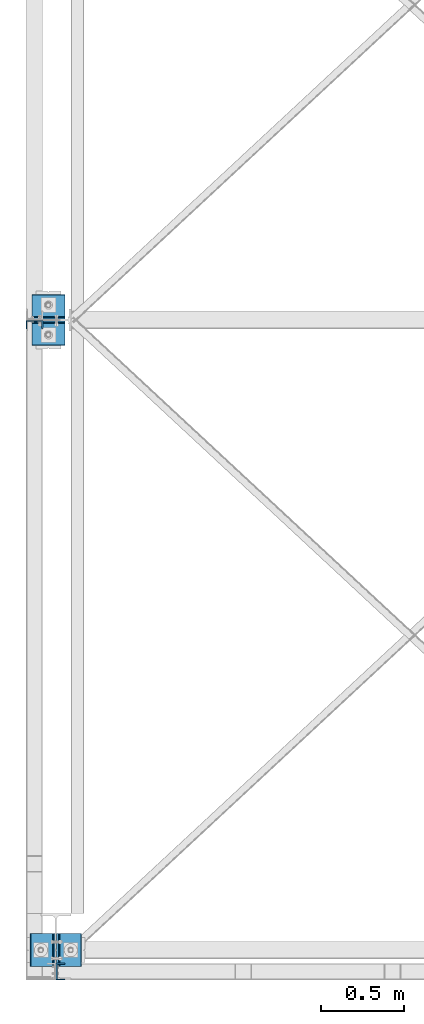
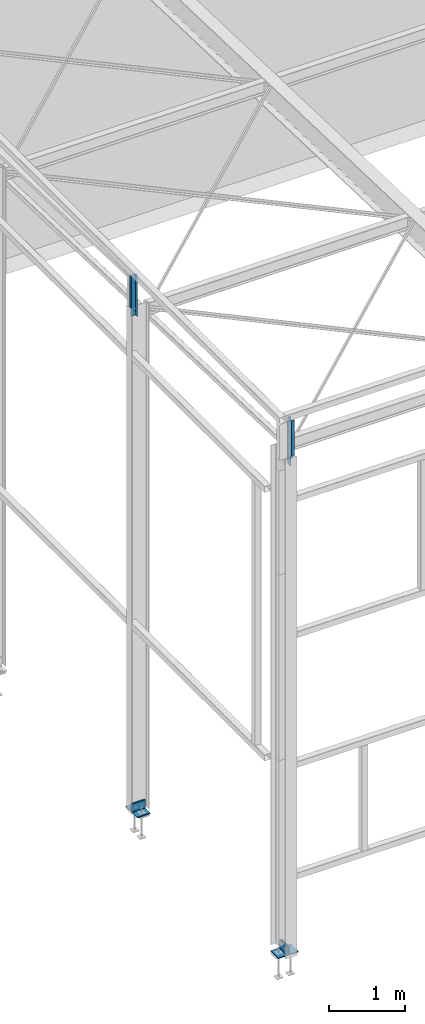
# One storey, part 40 of 123: 6 beams, 6 elements without a shape of their own.
"""IFC2X3 building model written with IfcOpenShell, lengths in millimetres."""

from ifc_helpers import new_model, si_unit, frame, origin_with_axes, origin_2d_with_axis, place, context, subcontext, project, spatial, polyline, l_section, u_section, outline, extrude, boolean, material, type_object, element, aggregate, save


model = new_model("IFC2X3")

# Units and contexts
model_context = context("Model", 3, precision=1e-05, world=origin_with_axes())
body_context = subcontext(model_context, "Body", "Model", "MODEL_VIEW")
ifc_project = project(units=[si_unit("LENGTHUNIT", "METRE", prefix="MILLI"), si_unit("AREAUNIT", "SQUARE_METRE"), si_unit("VOLUMEUNIT", "CUBIC_METRE"), si_unit("MASSUNIT", "GRAM", prefix="KILO"), si_unit("TIMEUNIT", "SECOND"), si_unit("PLANEANGLEUNIT", "RADIAN"), si_unit("SOLIDANGLEUNIT", "STERADIAN"), si_unit("THERMODYNAMICTEMPERATUREUNIT", "DEGREE_CELSIUS"), si_unit("LUMINOUSINTENSITYUNIT", "LUMEN")], contexts=[model_context])

# Site, building, storey
site_placement = place(None, origin_with_axes())
site = spatial("IfcSite", under=ifc_project, at=site_placement, Name="Undefined", CompositionType="ELEMENT")
building_placement = place(site_placement, origin_with_axes())
building = spatial("IfcBuilding", under=site, at=building_placement, Name="Undefined", CompositionType="ELEMENT")
storey_placement = place(building_placement, origin_with_axes())
storey = spatial("IfcBuildingStorey", under=building, at=storey_placement, Name="Undefined", CompositionType="ELEMENT", Elevation=0.0)

# Assembly, beam
assembly_1_placement = place(storey_placement, origin_with_axes())
assembly_1 = element("IfcElementAssembly", 1, at=assembly_1_placement, inside=storey, Name="Steel Assembly", AssemblyPlace="NOTDEFINED", PredefinedType="RIGID_FRAME")
ifc_material = material(Name="STEEL/S235-E24")
beam_type_1 = type_object("IfcBeamType", Name="UPF-100*50*4", PredefinedType="NOTDEFINED")
beam_1_placement = place(assembly_1_placement, frame((28.3000076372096, -130.000001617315, 8445.00161512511), z_axis=(0.0, 1.0, 0.0), x_axis=(0.0, 0.0, -1.0)))
beam_1 = element("IfcBeam", 2, at=beam_1_placement, type_object=beam_type_1, material=ifc_material, Name="BAIONNETTE", ObjectType="UPF-100*50*4", context=body_context, shape_type="CSG", body=[
    boolean("DIFFERENCE", extrude(u_section(Depth=100.0, FlangeWidth=50.0, WebThickness=4.0, FlangeThickness=4.0, at=origin_2d_with_axis()), frame((754.998684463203, 0.0, 0.0), z_axis=(-1.0, 0.0, 0.0), x_axis=(0.0, -1.0, 0.0)), (0.0, 0.0, 1.0), 755.0), extrude(outline(polyline([(0.0, 0.0), (19.999999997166, 0.0), (19.999999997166, 170.0), (-2.84853740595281e-09, 170.0), (0.0, 0.0)])), frame((584.998600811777, -27.5000000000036, -50.0000000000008), z_axis=(0.0, 1.0, 0.0), x_axis=(0.0, 0.0, 1.0)), (0.0, 0.0, 1.0), 55.0)),
])
aggregate(assembly_1, [beam_1])

assembly_2_placement = place(storey_placement, origin_with_axes())
assembly_2 = element("IfcElementAssembly", 3, at=assembly_2_placement, inside=storey, Name="Steel Assembly", AssemblyPlace="NOTDEFINED", PredefinedType="RIGID_FRAME")
beam_2_placement = place(assembly_2_placement, frame((-130.000001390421, 3771.7000000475, 8444.99776675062), z_axis=(1.0, 0.0, 0.0), x_axis=(0.0, 0.0, -1.0)))
beam_2 = element("IfcBeam", 4, at=beam_2_placement, type_object=beam_type_1, material=ifc_material, Name="BAIONNETTE", ObjectType="UPF-100*50*4", context=body_context, shape_type="CSG", body=[
    boolean("DIFFERENCE", extrude(u_section(Depth=100.0, FlangeWidth=50.0, WebThickness=4.0, FlangeThickness=4.0, at=origin_2d_with_axis()), frame((669.998684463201, 0.0, 0.0), z_axis=(-1.0, 0.0, 0.0), x_axis=(0.0, -1.0, 0.0)), (0.0, 0.0, 1.0), 670.0), extrude(outline(polyline([(0.0, 0.0), (19.999999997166, 0.0), (19.999999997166, 170.0), (-2.84853740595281e-09, 170.0), (0.0, 0.0)])), frame((499.998600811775, -27.5000000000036, -50.0000000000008), z_axis=(0.0, 1.0, 0.0), x_axis=(0.0, 0.0, 1.0)), (0.0, 0.0, 1.0), 55.0)),
])
aggregate(assembly_2, [beam_2])

assembly_3_placement = place(storey_placement, origin_with_axes())
assembly_3 = element("IfcElementAssembly", 5, at=assembly_3_placement, inside=storey, Name="Steel Assembly", AssemblyPlace="NOTDEFINED", PredefinedType="RIGID_FRAME")
beam_type_2 = type_object("IfcBeamType", Name="L150*15", PredefinedType="NOTDEFINED")
beam_3_placement = place(assembly_3_placement, frame((-80.0028495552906, 100.0, -175.0), z_axis=(0.0, 0.0, 1.0), x_axis=(0.0, -1.0, 0.0)))
beam_3 = element("IfcBeam", 6, at=beam_3_placement, type_object=beam_type_2, material=ifc_material, Name="ATTACHE", ObjectType="L150*15", context=body_context, shape_type="SweptSolid", body=[
    extrude(l_section(Depth=150.0, Width=150.0, Thickness=15.0, FilletRadius=16.0, EdgeRadius=8.0, at=origin_2d_with_axis()), frame((200.0, 0.0, 0.0), z_axis=(-1.0, 0.0, 0.0), x_axis=(0.0, -1.0, 0.0)), (0.0, 0.0, 1.0), 200.0),
])
aggregate(assembly_3, [beam_3])

assembly_4_placement = place(storey_placement, origin_with_axes())
assembly_4 = element("IfcElementAssembly", 7, at=assembly_4_placement, inside=storey, Name="Steel Assembly", AssemblyPlace="NOTDEFINED", PredefinedType="RIGID_FRAME")
beam_4_placement = place(assembly_4_placement, frame((79.9971504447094, -100.0, -175.0), z_axis=(0.0, 0.0, 1.0), x_axis=(0.0, 1.0, 0.0)))
beam_4 = element("IfcBeam", 8, at=beam_4_placement, type_object=beam_type_2, material=ifc_material, Name="ATTACHE", ObjectType="L150*15", context=body_context, shape_type="SweptSolid", body=[
    extrude(l_section(Depth=150.0, Width=150.0, Thickness=15.0, FilletRadius=16.0, EdgeRadius=8.0, at=origin_2d_with_axis()), frame((200.0, 0.0, 0.0), z_axis=(-1.0, 0.0, 0.0), x_axis=(0.0, -1.0, 0.0)), (0.0, 0.0, 1.0), 200.0),
])
aggregate(assembly_4, [beam_4])

assembly_5_placement = place(storey_placement, origin_with_axes())
assembly_5 = element("IfcElementAssembly", 9, at=assembly_5_placement, inside=storey, Name="Steel Assembly", AssemblyPlace="NOTDEFINED", PredefinedType="RIGID_FRAME")
beam_5_placement = place(assembly_5_placement, frame((55.0, 3880.0, -175.0), z_axis=(0.0, 0.0, 1.0), x_axis=(-1.0, 0.0, 0.0)))
beam_5 = element("IfcBeam", 10, at=beam_5_placement, type_object=beam_type_2, material=ifc_material, Name="ATTACHE", ObjectType="L150*15", context=body_context, shape_type="SweptSolid", body=[
    extrude(l_section(Depth=150.0, Width=150.0, Thickness=15.0, FilletRadius=16.0, EdgeRadius=8.0, at=origin_2d_with_axis()), frame((200.0, 0.0, 0.0), z_axis=(-1.0, 0.0, 0.0), x_axis=(0.0, -1.0, 0.0)), (0.0, 0.0, 1.0), 200.0),
])
aggregate(assembly_5, [beam_5])

assembly_6_placement = place(storey_placement, origin_with_axes())
assembly_6 = element("IfcElementAssembly", 11, at=assembly_6_placement, inside=storey, Name="Steel Assembly", AssemblyPlace="NOTDEFINED", PredefinedType="RIGID_FRAME")
beam_6_placement = place(assembly_6_placement, frame((-145.0, 3720.0, -175.0), z_axis=(0.0, 0.0, 1.0), x_axis=(1.0, 0.0, 0.0)))
beam_6 = element("IfcBeam", 12, at=beam_6_placement, type_object=beam_type_2, material=ifc_material, Name="ATTACHE", ObjectType="L150*15", context=body_context, shape_type="SweptSolid", body=[
    extrude(l_section(Depth=150.0, Width=150.0, Thickness=15.0, FilletRadius=16.0, EdgeRadius=8.0, at=origin_2d_with_axis()), frame((200.0, 0.0, 0.0), z_axis=(-1.0, 0.0, 0.0), x_axis=(0.0, -1.0, 0.0)), (0.0, 0.0, 1.0), 200.0),
])
aggregate(assembly_6, [beam_6])

save(model, "model.ifc")
